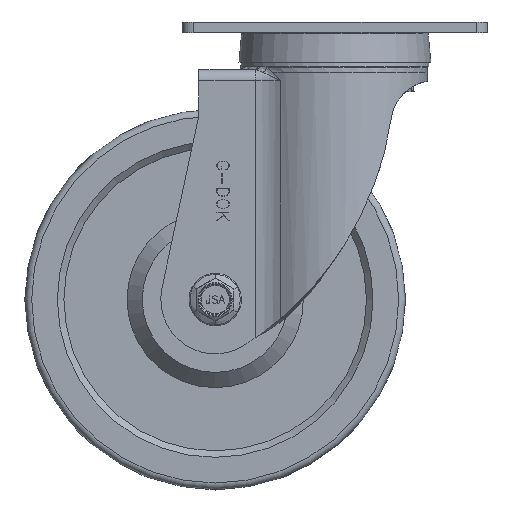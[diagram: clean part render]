
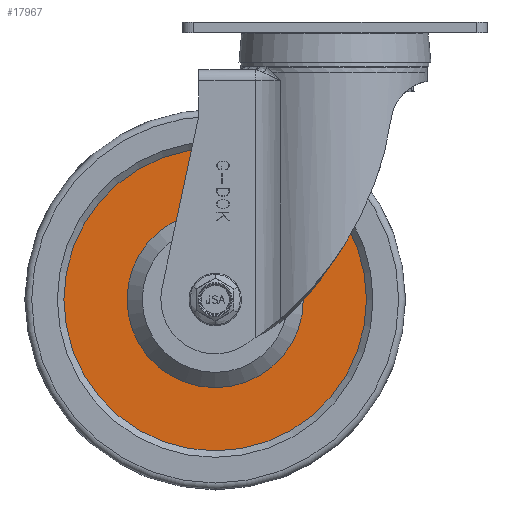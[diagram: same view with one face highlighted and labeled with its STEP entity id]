
A CAD part, front view. The second image highlights one B-rep face of the part: STEP entity #17967.
In plain terms, the highlighted planar face has unit normal (0, -1, 0).
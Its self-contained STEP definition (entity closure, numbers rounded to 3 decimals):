
#4715=FACE_BOUND('',#5801,.T.);
#4795=FACE_OUTER_BOUND('',#5800,.T.);
#5800=EDGE_LOOP('',(#11772,#11773));
#5801=EDGE_LOOP('',(#11774,#11775));
#6883=CIRCLE('',#18994,40.5);
#6884=CIRCLE('',#18995,40.5);
#6885=CIRCLE('',#18997,69.5);
#6886=CIRCLE('',#18998,69.5);
#7181=VERTEX_POINT('',#24416);
#7182=VERTEX_POINT('',#24417);
#7183=VERTEX_POINT('',#24422);
#7184=VERTEX_POINT('',#24423);
#9005=EDGE_CURVE('',#7181,#7182,#6883,.T.);
#9007=EDGE_CURVE('',#7182,#7181,#6884,.T.);
#9008=EDGE_CURVE('',#7183,#7184,#6885,.T.);
#9009=EDGE_CURVE('',#7184,#7183,#6886,.T.);
#11772=ORIENTED_EDGE('',*,*,#9008,.T.);
#11773=ORIENTED_EDGE('',*,*,#9009,.T.);
#11774=ORIENTED_EDGE('',*,*,#9005,.F.);
#11775=ORIENTED_EDGE('',*,*,#9007,.F.);
#17286=PLANE('',#18996);
#17967=ADVANCED_FACE('',(#4795,#4715),#17286,.T.);
#18994=AXIS2_PLACEMENT_3D('',#24418,#20169,#20170);
#18995=AXIS2_PLACEMENT_3D('',#24420,#20172,#20173);
#18996=AXIS2_PLACEMENT_3D('',#24421,#20174,#20175);
#18997=AXIS2_PLACEMENT_3D('',#24424,#20176,#20177);
#18998=AXIS2_PLACEMENT_3D('',#24425,#20178,#20179);
#20169=DIRECTION('center_axis',(0.,-1.,0.));
#20170=DIRECTION('ref_axis',(0.,0.,
1.));
#20172=DIRECTION('center_axis',(0.,-1.,0.));
#20173=DIRECTION('ref_axis',(0.,0.,
1.));
#20174=DIRECTION('center_axis',(0.,-1.,0.));
#20175=DIRECTION('ref_axis',(0.,0.,
1.));
#20176=DIRECTION('center_axis',(0.,-1.,0.));
#20177=DIRECTION('ref_axis',(0.,0.,
1.));
#20178=DIRECTION('center_axis',(0.,-1.,0.));
#20179=DIRECTION('ref_axis',(0.,0.,
1.));
#24416=CARTESIAN_POINT('',(-55.,-17.,-87.));
#24417=CARTESIAN_POINT('',(-55.,-17.,-168.));
#24418=CARTESIAN_POINT('Origin',(-55.,-17.,-127.5));
#24420=CARTESIAN_POINT('Origin',(-55.,-17.,-127.5));
#24421=CARTESIAN_POINT('Origin',(-55.,-17.,-87.));
#24422=CARTESIAN_POINT('',(-55.,-17.,-58.));
#24423=CARTESIAN_POINT('',(-55.,-17.,-197.));
#24424=CARTESIAN_POINT('Origin',(-55.,-17.,-127.5));
#24425=CARTESIAN_POINT('Origin',(-55.,-17.,-127.5));
